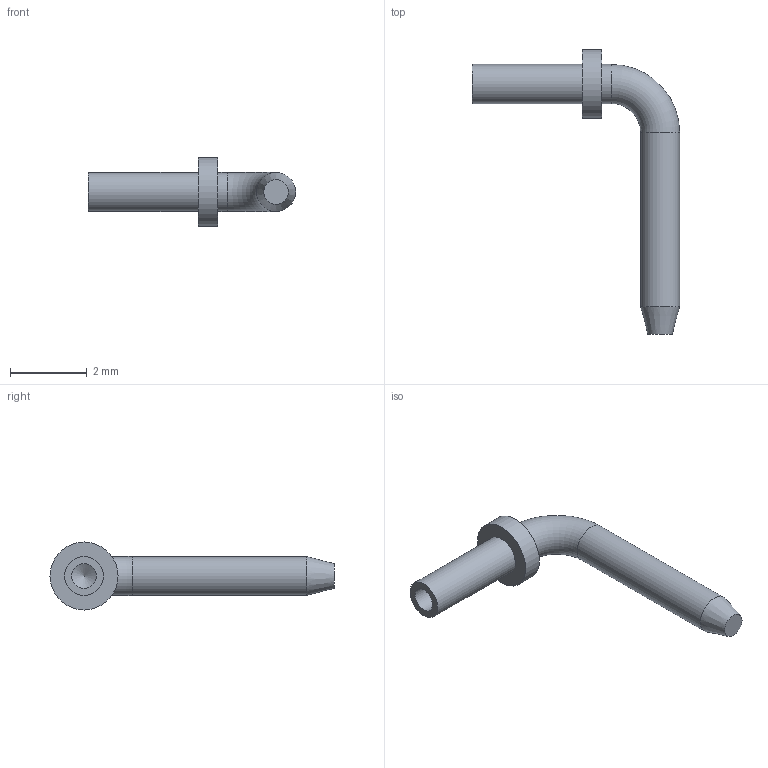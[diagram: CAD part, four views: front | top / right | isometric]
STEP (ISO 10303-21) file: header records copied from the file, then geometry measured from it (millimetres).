
FILE_DESCRIPTION(/* description */ (''),/* implementation_level */ '2;1');
FILE_NAME(/* name */ '\\Snap1\dwgs\460\460152103.stp',/* time_stamp */ '2015-03-19T12:59:18+00:00',/* author */ ('paulk'),/* organization */ (''),/* preprocessor_version */ 'ST-DEVELOPER v15.2',/* originating_system */ 'Autodesk Inventor 2014',/* authorisation */ '');
FILE_SCHEMA (('CONFIG_CONTROL_DESIGN'));
Length unit declared in the file: millimetre
Products named in the file (1): 460152103
Bounding box: 5.41 x 7.42 x 1.78 mm (x, y, z)
Volume: 9.2 mm3; surface area: 42.3 mm2
Topology: 1 solids, 1 shells, 12 faces, 20 edges, 12 vertices
Faces by surface type: cylinder 5, plane 4, cone 2, torus 1
Full cylindrical faces by diameter (mm): 0.64 x1, 1.02 x3, 1.778 x1
Entity records: 255 total; most frequent: DIRECTION 48, CARTESIAN_POINT 35, AXIS2_PLACEMENT_3D 24, EDGE_LOOP 22, ORIENTED_EDGE 22, FACE_BOUND 12, ADVANCED_FACE 12, CIRCLE 11
